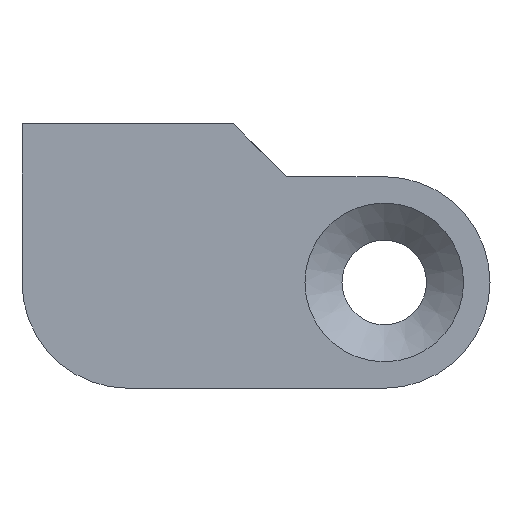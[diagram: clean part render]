
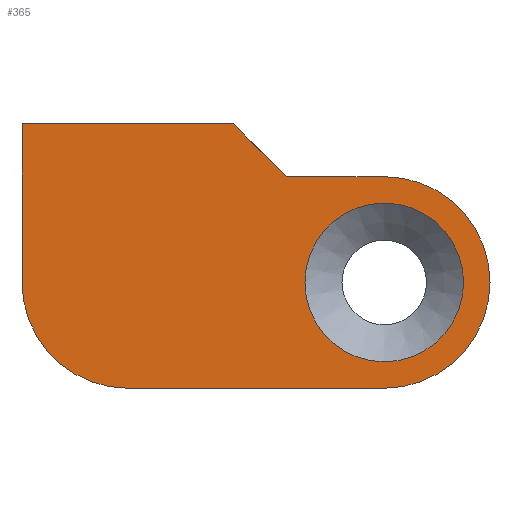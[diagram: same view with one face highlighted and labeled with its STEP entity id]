
A CAD part, front view. The second image highlights one B-rep face of the part: STEP entity #365.
In plain terms, the highlighted planar face has unit normal (0, -1, 0).
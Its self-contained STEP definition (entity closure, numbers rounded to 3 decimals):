
#18=FACE_BOUND('',#81,.T.);
#30=PLANE('',#414);
#57=FACE_OUTER_BOUND('',#80,.T.);
#80=EDGE_LOOP('',(#332,#333,#334,#335,#336,#337,#338));
#81=EDGE_LOOP('',(#339));
#88=LINE('',#542,#122);
#98=LINE('',#570,#132);
#102=LINE('',#579,#136);
#109=LINE('',#598,#143);
#117=LINE('',#618,#151);
#122=VECTOR('',#436,10.);
#132=VECTOR('',#462,10.);
#136=VECTOR('',#468,10.);
#143=VECTOR('',#489,10.);
#151=VECTOR('',#511,10.);
#155=CIRCLE('',#386,3.);
#163=CIRCLE('',#405,4.);
#166=CIRCLE('',#413,4.);
#170=VERTEX_POINT('',#532);
#173=VERTEX_POINT('',#539);
#174=VERTEX_POINT('',#541);
#184=VERTEX_POINT('',#568);
#188=VERTEX_POINT('',#577);
#193=VERTEX_POINT('',#597);
#195=VERTEX_POINT('',#603);
#198=VERTEX_POINT('',#616);
#203=EDGE_CURVE('',#170,#170,#155,.T.);
#207=EDGE_CURVE('',#173,#174,#88,.T.);
#221=EDGE_CURVE('',#184,#173,#98,.T.);
#225=EDGE_CURVE('',#188,#184,#102,.T.);
#235=EDGE_CURVE('',#193,#174,#109,.T.);
#239=EDGE_CURVE('',#188,#195,#163,.T.);
#245=EDGE_CURVE('',#195,#198,#117,.T.);
#247=EDGE_CURVE('',#198,#193,#166,.T.);
#332=ORIENTED_EDGE('',*,*,#247,.T.);
#333=ORIENTED_EDGE('',*,*,#235,.T.);
#334=ORIENTED_EDGE('',*,*,#207,.F.);
#335=ORIENTED_EDGE('',*,*,#221,.F.);
#336=ORIENTED_EDGE('',*,*,#225,.F.);
#337=ORIENTED_EDGE('',*,*,#239,.T.);
#338=ORIENTED_EDGE('',*,*,#245,.T.);
#339=ORIENTED_EDGE('',*,*,#203,.T.);
#365=ADVANCED_FACE('',(#57,#18),#30,.T.);
#386=AXIS2_PLACEMENT_3D('',#533,#429,#430);
#405=AXIS2_PLACEMENT_3D('',#605,#495,#496);
#413=AXIS2_PLACEMENT_3D('',#621,#516,#517);
#414=AXIS2_PLACEMENT_3D('',#622,#518,#519);
#429=DIRECTION('center_axis',(0.,1.,0.));
#430=DIRECTION('ref_axis',(0.,0.,-1.));
#436=DIRECTION('',(0.707,0.,-0.707));
#462=DIRECTION('',(1.,0.,0.));
#468=DIRECTION('',(0.,0.,1.));
#489=DIRECTION('',(-1.,0.,0.));
#495=DIRECTION('center_axis',(0.,-1.,0.));
#496=DIRECTION('ref_axis',(0.,0.,1.));
#511=DIRECTION('',(1.,0.,0.));
#516=DIRECTION('center_axis',(0.,-1.,0.));
#517=DIRECTION('ref_axis',(0.,0.,-1.));
#518=DIRECTION('center_axis',(0.,-1.,0.));
#519=DIRECTION('ref_axis',(1.,0.,0.));
#532=CARTESIAN_POINT('',(-37.274,-134.8,-5.916));
#533=CARTESIAN_POINT('Origin',(-37.274,-134.8,-8.916));
#539=CARTESIAN_POINT('',(-42.974,-134.8,-2.916));
#541=CARTESIAN_POINT('',(-40.974,-134.8,-4.916));
#542=CARTESIAN_POINT('',(-40.761,-134.8,-5.128));
#568=CARTESIAN_POINT('',(-50.974,-134.8,-2.916));
#570=CARTESIAN_POINT('',(-50.974,-134.8,-2.916));
#577=CARTESIAN_POINT('',(-50.974,-134.8,-8.916));
#579=CARTESIAN_POINT('',(-50.974,-134.8,-4.916));
#597=CARTESIAN_POINT('',(-37.274,-134.8,-4.916));
#598=CARTESIAN_POINT('',(-37.274,-134.8,-4.916));
#603=CARTESIAN_POINT('',(-46.974,-134.8,-12.916));
#605=CARTESIAN_POINT('Origin',(-46.974,-134.8,-8.916));
#616=CARTESIAN_POINT('',(-37.274,-134.8,-12.916));
#618=CARTESIAN_POINT('',(-46.974,-134.8,-12.916));
#621=CARTESIAN_POINT('Origin',(-37.274,-134.8,-8.916));
#622=CARTESIAN_POINT('Origin',(-42.124,-134.8,-8.916));
